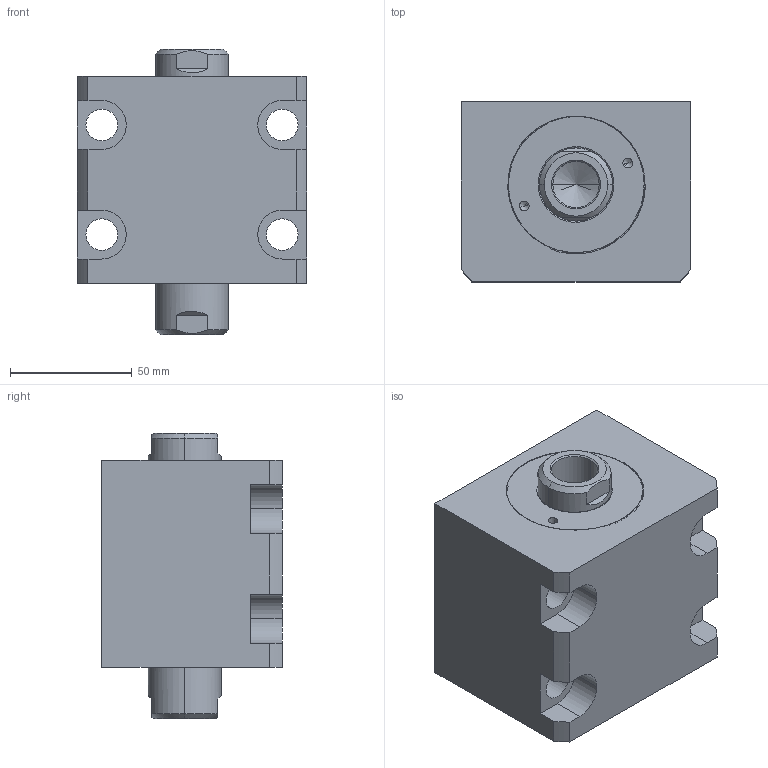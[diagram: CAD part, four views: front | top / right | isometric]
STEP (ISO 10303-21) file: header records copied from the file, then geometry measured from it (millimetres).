
FILE_DESCRIPTION (( 'STEP AP203' ), '1' );
FILE_NAME ('CHTB-LWM50-10N.STEP', '2018-05-18T11:01:49', ( '' ), ( '' ), 'SwSTEP 2.0', 'SolidWorks 2015', '' );
FILE_SCHEMA (( 'CONFIG_CONTROL_DESIGN' ));
Length unit declared in the file: millimetre
Products named in the file (4): 掛极LWM50-10N; CHTB-LWM50-10N; CHTM-SDMA50QG; 活塞杆LWM50-10N
Assembly tree (3 placements, depth 2):
  CHTB-LWM50-10N
    掛极LWM50-10N
    活塞杆LWM50-10N
    CHTM-SDMA50QG
Bounding box: 94 x 74 x 117 mm (x, y, z)
Volume: 526108.6 mm3; surface area: 99462.6 mm2
Topology: 3 solids, 3 shells, 201 faces, 539 edges, 354 vertices
Faces by surface type: cylinder 102, plane 47, cone 22, torus 16, bspline 14
Entity records: 11205 total; most frequent: CARTESIAN_POINT 5986, ORIENTED_EDGE 1062, DIRECTION 951, EDGE_CURVE 531, AXIS2_PLACEMENT_3D 380, VERTEX_POINT 354, EDGE_LOOP 235, ADVANCED_FACE 201
